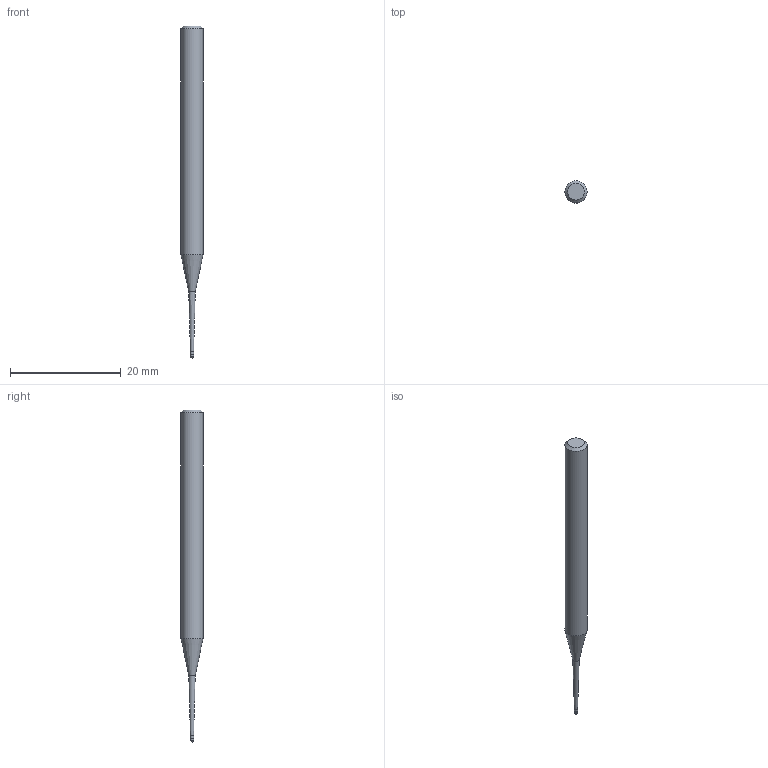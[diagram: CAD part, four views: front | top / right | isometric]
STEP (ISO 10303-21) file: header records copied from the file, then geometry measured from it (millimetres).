
FILE_DESCRIPTION((''),'2;1');
FILE_NAME('C:\Users\nsx150\AppData\Local\Temp\Mastercam 2021\SNAKH10GOD\TEMP.step','2021-10-21T13:31:33',(''),(''),'STEP Write','Mastercam 2021 ... CNC Software, Inc.','');
FILE_SCHEMA(('AUTOMOTIVE_DESIGN'));
Length unit declared in the file: millimetre
Products named in the file (1): None
Bounding box: 4 x 4 x 60 mm (x, y, z)
Volume: 563.6 mm3; surface area: 615.9 mm2
Topology: 2 solids, 2 shells, 10 faces, 16 edges, 9 vertices
Faces by surface type: plane 3, cylinder 3, cone 3, sphere 1
Full cylindrical faces by diameter (mm): 0.585 x1, 0.6 x1, 4 x1
Entity records: 232 total; most frequent: DIRECTION 40, CARTESIAN_POINT 28, AXIS2_PLACEMENT_3D 20, ORIENTED_EDGE 16, EDGE_LOOP 16, STYLED_ITEM 13, ADVANCED_FACE 10, FACE_BOUND 9
